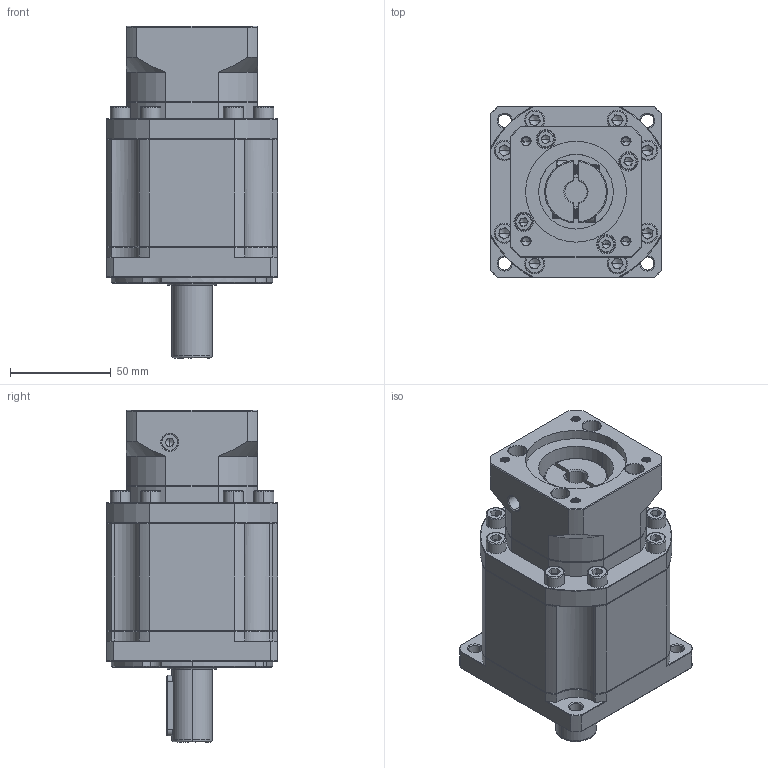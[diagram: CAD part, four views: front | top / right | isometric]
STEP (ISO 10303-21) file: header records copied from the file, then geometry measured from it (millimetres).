
FILE_DESCRIPTION (( 'STEP AP214' ), '1' );
FILE_NAME ('ZB090-D20-L3-P2-11-50-70-M5.step', '2023-08-18T13:34:11', ( '' ), ( '' ), 'SwSTEP 2.0', 'SolidWorks 2016', '' );
FILE_SCHEMA (( 'AUTOMOTIVE_DESIGN' ));
Length unit declared in the file: millimetre
Products named in the file (1): ZB090-D20-L3-P2-11-50-70-M5
Bounding box: 85 x 85 x 164.5 mm (x, y, z)
Volume: 664322.3 mm3; surface area: 82765.1 mm2
Topology: 6 solids, 6 shells, 2361 faces, 6275 edges, 4010 vertices
Faces by surface type: plane 1185, bspline 426, cylinder 406, cone 322, torus 22
Entity records: 125958 total; most frequent: CARTESIAN_POINT 44658, ORIENTED_EDGE 12458, DIRECTION 9937, EDGE_CURVE 6229, VERTEX_POINT 4010, LINE 3949, VECTOR 3949, AXIS2_PLACEMENT_3D 2994
